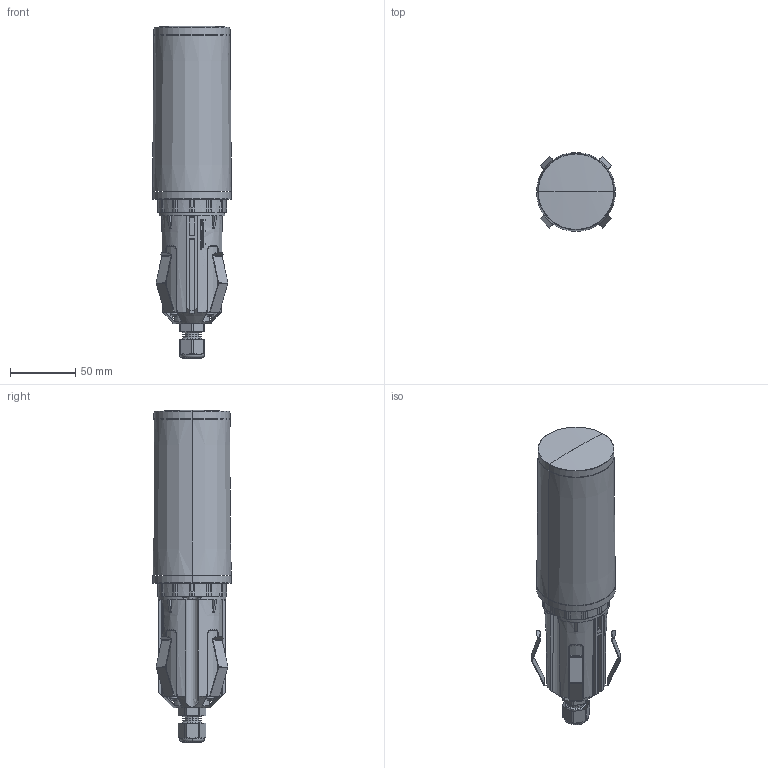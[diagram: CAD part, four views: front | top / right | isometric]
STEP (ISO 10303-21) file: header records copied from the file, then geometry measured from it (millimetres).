
FILE_DESCRIPTION((''),'2;1');
FILE_NAME('STIK-H200_SW0002','2025-05-27T08:47:15',('elena.baldelli'),(''),'CREO PARAMETRIC BY PTC INC, 2020354','CREO PARAMETRIC BY PTC INC, 2020354','');
FILE_SCHEMA(('CONFIG_CONTROL_DESIGN'));
Length unit declared in the file: millimetre
Products named in the file (1): STIK-H200_SW0002
Bounding box: 60.5 x 60.5 x 254.87 mm (x, y, z)
Surface area: 76828.5 mm2 (no closed solid volume)
Topology: 0 solids, 72 shells, 323 faces, 2059 edges, 1756 vertices
Faces by surface type: cone 100, plane 92, cylinder 64, bspline 38, torus 19, sphere 10
Entity records: 24237 total; most frequent: CARTESIAN_POINT 10796, ORIENTED_EDGE 2518, DIRECTION 2235, EDGE_CURVE 2057, VERTEX_POINT 1756, B_SPLINE_CURVE_WITH_KNOTS 972, AXIS2_PLACEMENT_3D 865, CIRCLE 580
